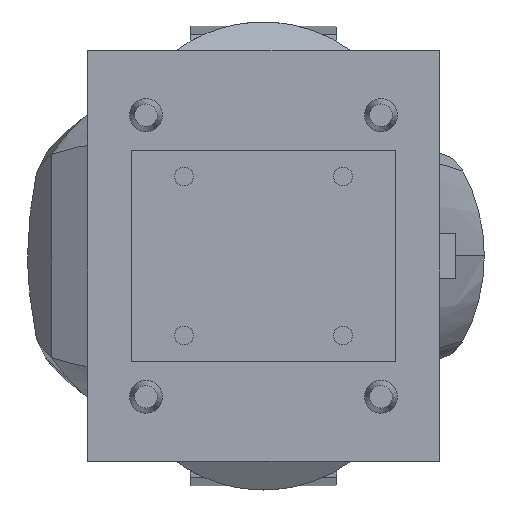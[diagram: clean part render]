
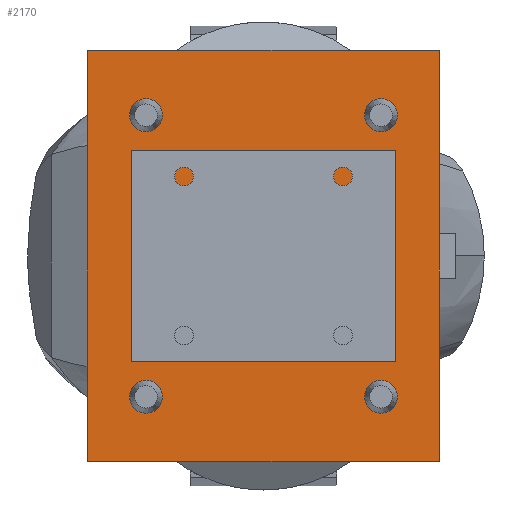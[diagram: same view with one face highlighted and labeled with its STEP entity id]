
A CAD part, front view. The second image highlights one B-rep face of the part: STEP entity #2170.
In plain terms, the highlighted planar face has unit normal (0, -1, 0.001).
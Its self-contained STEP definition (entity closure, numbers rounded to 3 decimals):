
#29=(
BOUNDED_CURVE()
B_SPLINE_CURVE(2,(#29825,#29826,#29827),.UNSPECIFIED.,.F.,.F.)
B_SPLINE_CURVE_WITH_KNOTS((3,3),(0.,919.37),.UNSPECIFIED.)
CURVE()
GEOMETRIC_REPRESENTATION_ITEM()
RATIONAL_B_SPLINE_CURVE((1.,1.,1.))
REPRESENTATION_ITEM('')
);
#31=(
BOUNDED_CURVE()
B_SPLINE_CURVE(2,(#29892,#29893,#29894),.UNSPECIFIED.,.F.,.F.)
B_SPLINE_CURVE_WITH_KNOTS((3,3),(0.,919.37),.UNSPECIFIED.)
CURVE()
GEOMETRIC_REPRESENTATION_ITEM()
RATIONAL_B_SPLINE_CURVE((1.,1.,1.))
REPRESENTATION_ITEM('')
);
#63=FACE_BOUND('',#475,.T.);
#64=FACE_BOUND('',#476,.T.);
#65=FACE_BOUND('',#477,.T.);
#66=FACE_BOUND('',#478,.T.);
#67=FACE_BOUND('',#479,.T.);
#87=PLANE('',#2343);
#175=CIRCLE('',#2344,13.097);
#176=CIRCLE('',#2345,13.097);
#177=CIRCLE('',#2346,13.097);
#178=CIRCLE('',#2347,13.097);
#179=CIRCLE('',#2348,13.097);
#180=CIRCLE('',#2349,13.097);
#181=CIRCLE('',#2350,13.097);
#182=CIRCLE('',#2351,13.097);
#336=FACE_OUTER_BOUND('',#474,.T.);
#474=EDGE_LOOP('',(#1824,#1825,#1826,#1827));
#475=EDGE_LOOP('',(#1828,#1829,#1830,#1831));
#476=EDGE_LOOP('',(#1832,#1833));
#477=EDGE_LOOP('',(#1834,#1835));
#478=EDGE_LOOP('',(#1836,#1837));
#479=EDGE_LOOP('',(#1838,#1839));
#573=LINE('',#29957,#711);
#578=LINE('',#29972,#716);
#583=LINE('',#29982,#721);
#590=LINE('',#30016,#728);
#596=LINE('',#30027,#734);
#597=LINE('',#30029,#735);
#711=VECTOR('',#2604,0.356);
#716=VECTOR('',#2617,0.356);
#721=VECTOR('',#2624,0.356);
#728=VECTOR('',#2661,0.356);
#734=VECTOR('',#2673,0.356);
#735=VECTOR('',#2676,0.356);
#996=VERTEX_POINT('',#29823);
#997=VERTEX_POINT('',#29824);
#1000=VERTEX_POINT('',#29890);
#1001=VERTEX_POINT('',#29891);
#1008=VERTEX_POINT('',#29970);
#1009=VERTEX_POINT('',#29971);
#1013=VERTEX_POINT('',#29981);
#1025=VERTEX_POINT('',#30015);
#1028=VERTEX_POINT('',#30030);
#1029=VERTEX_POINT('',#30031);
#1030=VERTEX_POINT('',#30034);
#1031=VERTEX_POINT('',#30035);
#1032=VERTEX_POINT('',#30038);
#1033=VERTEX_POINT('',#30039);
#1034=VERTEX_POINT('',#30042);
#1035=VERTEX_POINT('',#30043);
#1268=EDGE_CURVE('',#996,#997,#29,.T.);
#1272=EDGE_CURVE('',#1000,#1001,#31,.T.);
#1276=EDGE_CURVE('',#996,#1001,#573,.F.);
#1283=EDGE_CURVE('',#1008,#1009,#578,.T.);
#1288=EDGE_CURVE('',#1013,#1008,#583,.T.);
#1305=EDGE_CURVE('',#1025,#1013,#590,.T.);
#1311=EDGE_CURVE('',#1009,#1025,#596,.T.);
#1312=EDGE_CURVE('',#1000,#997,#597,.F.);
#1313=EDGE_CURVE('',#1028,#1029,#175,.T.);
#1314=EDGE_CURVE('',#1029,#1028,#176,.T.);
#1315=EDGE_CURVE('',#1030,#1031,#177,.T.);
#1316=EDGE_CURVE('',#1031,#1030,#178,.T.);
#1317=EDGE_CURVE('',#1032,#1033,#179,.T.);
#1318=EDGE_CURVE('',#1033,#1032,#180,.T.);
#1319=EDGE_CURVE('',#1034,#1035,#181,.T.);
#1320=EDGE_CURVE('',#1035,#1034,#182,.T.);
#1824=ORIENTED_EDGE('',*,*,#1268,.T.);
#1825=ORIENTED_EDGE('',*,*,#1312,.F.);
#1826=ORIENTED_EDGE('',*,*,#1272,.T.);
#1827=ORIENTED_EDGE('',*,*,#1276,.F.);
#1828=ORIENTED_EDGE('',*,*,#1288,.T.);
#1829=ORIENTED_EDGE('',*,*,#1283,.T.);
#1830=ORIENTED_EDGE('',*,*,#1311,.T.);
#1831=ORIENTED_EDGE('',*,*,#1305,.T.);
#1832=ORIENTED_EDGE('',*,*,#1313,.T.);
#1833=ORIENTED_EDGE('',*,*,#1314,.T.);
#1834=ORIENTED_EDGE('',*,*,#1315,.T.);
#1835=ORIENTED_EDGE('',*,*,#1316,.T.);
#1836=ORIENTED_EDGE('',*,*,#1317,.T.);
#1837=ORIENTED_EDGE('',*,*,#1318,.T.);
#1838=ORIENTED_EDGE('',*,*,#1319,.T.);
#1839=ORIENTED_EDGE('',*,*,#1320,.T.);
#2170=ADVANCED_FACE('',(#336,#63,#64,#65,#66,#67),#87,.F.);
#2343=AXIS2_PLACEMENT_3D('',#30028,#2674,#2675);
#2344=AXIS2_PLACEMENT_3D('',#30032,#2677,#2678);
#2345=AXIS2_PLACEMENT_3D('',#30033,#2679,#2680);
#2346=AXIS2_PLACEMENT_3D('',#30036,#2681,#2682);
#2347=AXIS2_PLACEMENT_3D('',#30037,#2683,#2684);
#2348=AXIS2_PLACEMENT_3D('',#30040,#2685,#2686);
#2349=AXIS2_PLACEMENT_3D('',#30041,#2687,#2688);
#2350=AXIS2_PLACEMENT_3D('',#30044,#2689,#2690);
#2351=AXIS2_PLACEMENT_3D('',#30045,#2691,#2692);
#2604=DIRECTION('',(1.,0.,0.));
#2617=DIRECTION('',(0.,0.001,1.));
#2624=DIRECTION('',(-1.,0.,0.));
#2661=DIRECTION('',(0.,-0.001,-1.));
#2673=DIRECTION('',(1.,0.,0.));
#2674=DIRECTION('center_axis',(0.,1.,-0.001));
#2675=DIRECTION('ref_axis',(0.,0.001,1.));
#2676=DIRECTION('',(-1.,0.,0.));
#2677=DIRECTION('center_axis',(0.,1.,-0.001));
#2678=DIRECTION('ref_axis',(0.,0.001,1.));
#2679=DIRECTION('center_axis',(0.,1.,-0.001));
#2680=DIRECTION('ref_axis',(0.,0.001,1.));
#2681=DIRECTION('center_axis',(0.,1.,-0.001));
#2682=DIRECTION('ref_axis',(0.,0.001,1.));
#2683=DIRECTION('center_axis',(0.,1.,-0.001));
#2684=DIRECTION('ref_axis',(0.,0.001,1.));
#2685=DIRECTION('center_axis',(0.,1.,-0.001));
#2686=DIRECTION('ref_axis',(0.,0.001,1.));
#2687=DIRECTION('center_axis',(0.,1.,-0.001));
#2688=DIRECTION('ref_axis',(0.,0.001,1.));
#2689=DIRECTION('center_axis',(0.,1.,-0.001));
#2690=DIRECTION('ref_axis',(0.,0.001,1.));
#2691=DIRECTION('center_axis',(0.,1.,-0.001));
#2692=DIRECTION('ref_axis',(0.,0.001,1.));
#29823=CARTESIAN_POINT('',(-1765.855,2518.598,-1853.74));
#29824=CARTESIAN_POINT('',(-1765.854,2518.915,-1526.811));
#29825=CARTESIAN_POINT('Ctrl Pts',(-1765.855,2518.598,-1853.74));
#29826=CARTESIAN_POINT('Ctrl Pts',(-1765.855,2518.757,-1690.276));
#29827=CARTESIAN_POINT('Ctrl Pts',(-1765.854,2518.915,-1526.811));
#29890=CARTESIAN_POINT('',(-2045.844,2518.915,-1526.811));
#29891=CARTESIAN_POINT('',(-2045.843,2518.598,-1853.74));
#29892=CARTESIAN_POINT('Ctrl Pts',(-2045.844,2518.915,-1526.811));
#29893=CARTESIAN_POINT('Ctrl Pts',(-2045.843,2518.757,-1690.276));
#29894=CARTESIAN_POINT('Ctrl Pts',(-2045.843,2518.598,-1853.74));
#29957=CARTESIAN_POINT('',(-1905.849,2518.598,-1853.74));
#29970=CARTESIAN_POINT('',(-2011.075,2518.675,-1774.277));
#29971=CARTESIAN_POINT('',(-2011.075,2518.757,-1690.277));
#29972=CARTESIAN_POINT('',(-2011.075,2518.716,-1732.284));
#29981=CARTESIAN_POINT('',(-1800.623,2518.675,-1774.277));
#29982=CARTESIAN_POINT('',(-1853.236,2518.675,-1774.277));
#30015=CARTESIAN_POINT('',(-1800.623,2518.757,-1690.277));
#30016=CARTESIAN_POINT('',(-1800.623,2518.797,-1648.284));
#30027=CARTESIAN_POINT('',(-1905.849,2518.757,-1690.277));
#30028=CARTESIAN_POINT('Origin',(-1905.849,2518.757,-1690.276));
#30029=CARTESIAN_POINT('',(-1905.849,2518.915,-1526.811));
#30030=CARTESIAN_POINT('',(-1999.333,2518.635,-1815.374));
#30031=CARTESIAN_POINT('',(-1986.236,2518.648,-1802.277));
#30032=CARTESIAN_POINT('Origin',(-1999.333,2518.648,-1802.277));
#30033=CARTESIAN_POINT('Origin',(-1999.333,2518.648,-1802.277));
#30034=CARTESIAN_POINT('',(-1812.365,2518.635,-1815.374));
#30035=CARTESIAN_POINT('',(-1799.268,2518.648,-1802.277));
#30036=CARTESIAN_POINT('Origin',(-1812.365,2518.648,-1802.277));
#30037=CARTESIAN_POINT('Origin',(-1812.365,2518.648,-1802.277));
#30038=CARTESIAN_POINT('',(-1812.365,2518.852,-1591.374));
#30039=CARTESIAN_POINT('',(-1799.268,2518.865,-1578.277));
#30040=CARTESIAN_POINT('Origin',(-1812.365,2518.865,-1578.277));
#30041=CARTESIAN_POINT('Origin',(-1812.365,2518.865,-1578.277));
#30042=CARTESIAN_POINT('',(-1999.333,2518.852,-1591.374));
#30043=CARTESIAN_POINT('',(-1986.236,2518.865,-1578.277));
#30044=CARTESIAN_POINT('Origin',(-1999.333,2518.865,-1578.277));
#30045=CARTESIAN_POINT('Origin',(-1999.333,2518.865,-1578.277));
